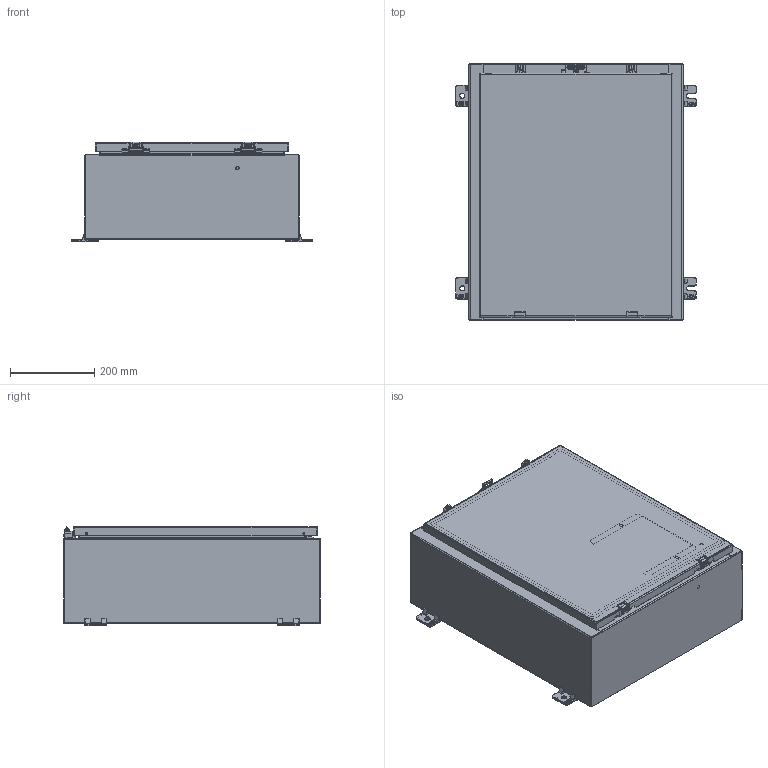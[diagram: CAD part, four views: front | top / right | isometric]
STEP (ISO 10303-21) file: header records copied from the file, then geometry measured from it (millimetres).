
FILE_DESCRIPTION((''),'2;1');
FILE_NAME('MODEL-310_ASM','2022-12-16T11:12:55',('Tony.Gonzales'),('SAGINAW CONTROL & ENGINEERING'),'CREO PARAMETRIC BY PTC INC, 2021284','CREO PARAMETRIC BY PTC INC, 2021284','');
FILE_SCHEMA(('AUTOMOTIVE_DESIGN { 1 0 10303 214 1 1 1 1 }'));
Length unit declared in the file: inch
Products named in the file (35): MODEL-310-BDY; MODEL-310-RS; MODEL-310-LS; MODEL-310-DR; 100837; 100882; 111541; MODEL-310-DOOR-GASKET; 126391; 126391_ASM; 126393; 102483; 101226; 101376; 102140; 115117; MODEL-310-DOOR-ASSY_ASM; 128630; 100059; 128630_ASM; 100921; 128631; 128631_ASM; 101653; 121452; 120132_BASE; 120132_CLAMP; 120132_SCREW; 120132_SPRING; 120132_ASM; 120133; SUBPANEL; 100904; SUBPANEL-SUBASSEMBLY_ASM; MODEL-310_ASM
Assembly tree (65 placements, depth 4):
  MODEL-310_ASM
    MODEL-310-BDY
    MODEL-310-RS
    MODEL-310-LS
    MODEL-310-DOOR-ASSY_ASM
      MODEL-310-DR
      100837  x3
      100882  x2
      111541
      MODEL-310-DOOR-GASKET
      126391_ASM  x2
        126391
      126393  x2
      102483  x7
      101226  x2
      101376  x2
      102140  x2
      115117
    128630_ASM  x2
      128630
      100059
    100921  x4
    128631_ASM  x2
      128631
      100059
    100837
    101653  x4
    121452
    120132_ASM  x2
      120132_BASE
      120132_CLAMP
      120132_SCREW
      120132_SPRING
    100882  x3
    120133
    SUBPANEL-SUBASSEMBLY_ASM
      SUBPANEL
      100904  x4
Bounding box: 571.5 x 609.6 x 237.31 mm (x, y, z)
Volume: 3410777.2 mm3; surface area: 3103412.8 mm2
Topology: 65 solids, 65 shells, 4768 faces, 12217 edges, 7666 vertices
Faces by surface type: plane 1735, cylinder 1301, bspline 969, torus 526, cone 136, sphere 101
Entity records: 114923 total; most frequent: CARTESIAN_POINT 36462, ORIENTED_EDGE 11638, DIRECTION 11154, PRESENTATION_STYLE_ASSIGNMENT 5952, STYLED_ITEM 5952, CURVE_STYLE 5819, EDGE_CURVE 5819, AXIS2_PLACEMENT_3D 4128
